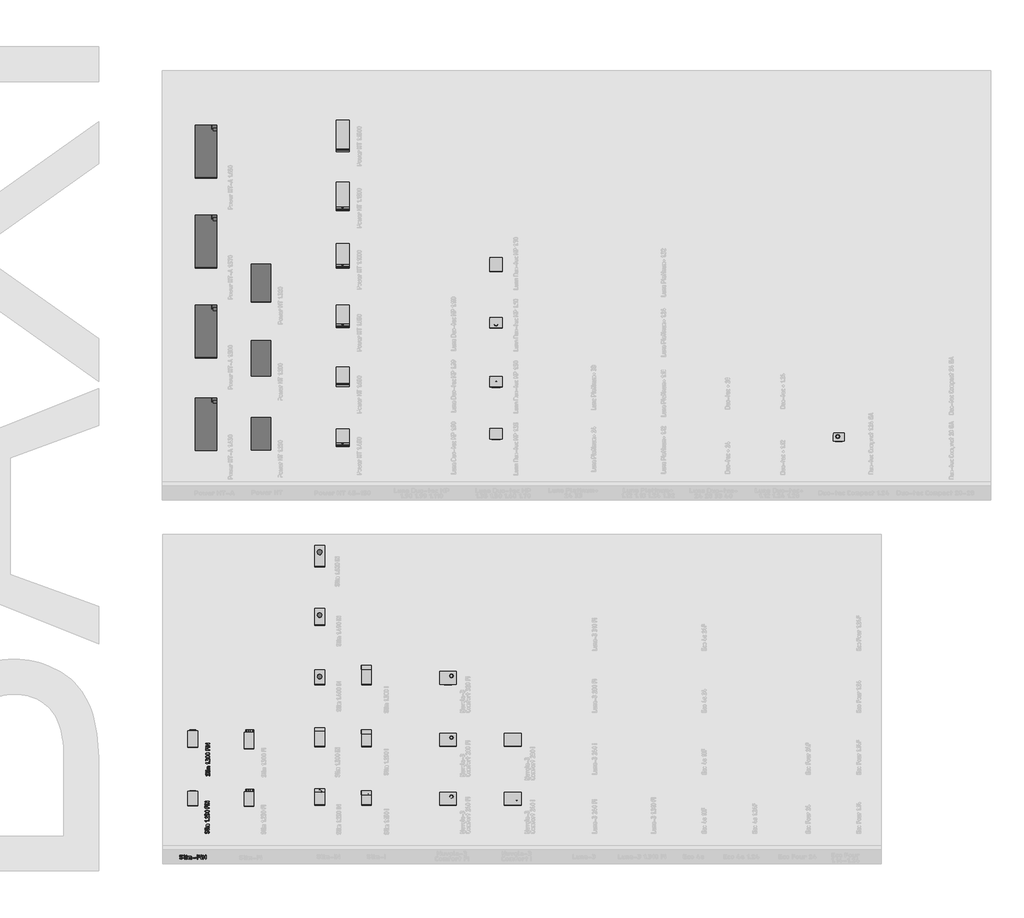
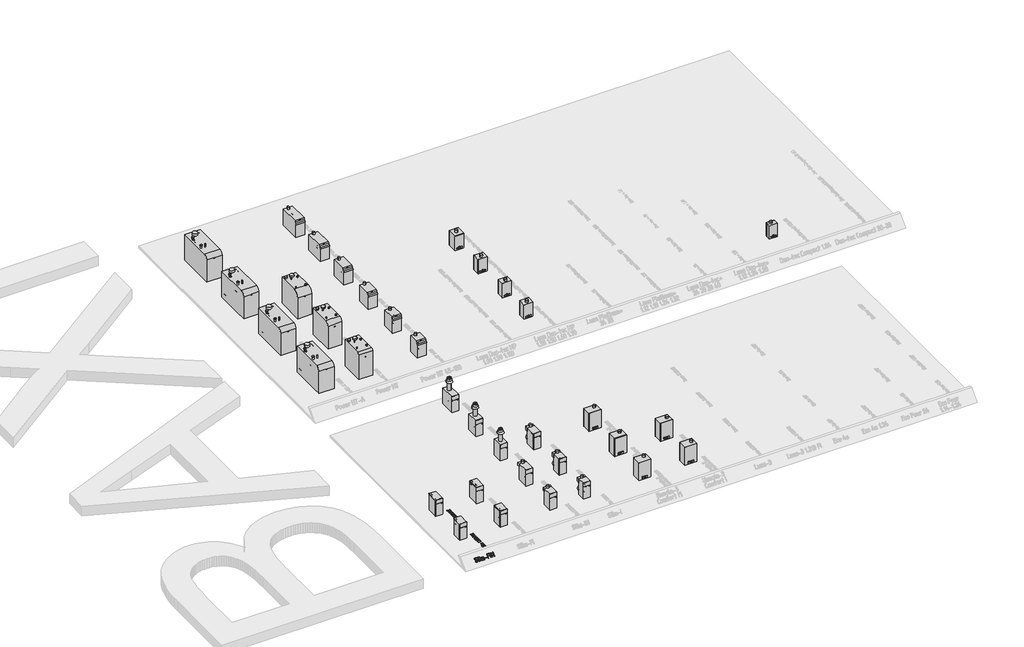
# One storey, part 1 of 37: 38 proxies.
"""IFC4 building model written with IfcOpenShell, lengths in millimetres."""

from ifc_helpers import new_model, si_unit, frame, origin, origin_with_axes, place, context, project, spatial, polyline, outline, extrude, transform, mapped, element, save
from components import mechanical_equipment_8a4b9af9, mechanical_equipment_a74dad36, mechanical_equipment_10b0f234, mechanical_equipment_650515a4, mechanical_equipment_463e2e80, mechanical_equipment_e18ea89c, mechanical_equipment_23d5eb3c, mechanical_equipment_ea8dedc1, mechanical_equipment_b090fe39, mechanical_equipment_0fdd0bc7, mechanical_equipment_2a8ce769, mechanical_equipment_119eb01d, mechanical_equipment_6b7b6108, mechanical_equipment_e7e8762c, mechanical_equipment_2752ba4d, mechanical_equipment_6a41e5de, mechanical_equipment_393236bb, mechanical_equipment_7dd2ec9c, mechanical_equipment_66ac5500, mechanical_equipment_ec901020, mechanical_equipment_c902e5fc, mechanical_equipment_f56d0d52, mechanical_equipment_bfaf0c7a, mechanical_equipment_19ea7d72, mechanical_equipment_07f1cfd3, mechanical_equipment_adfab362, mechanical_equipment_bacb03d4

model = new_model("IFC4")

# Units and contexts
model_context = context("Model", 3, world=origin())
ifc_project = project(units=[si_unit("LENGTHUNIT", "METRE", prefix="MILLI")], contexts=[model_context])

# Site, building, storey
site = spatial("IfcSite", under=ifc_project)
building = spatial("IfcBuilding", under=site)
storey = spatial("IfcBuildingStorey", under=building, Name="01_Стартовый вид_Площадка", Elevation=0.0)

# Proxies
placement = place(None, origin())
element("IfcBuildingElementProxy", 1, Name="200мм", ObjectType="200мм", at=placement, inside=storey, context=model_context, shape_type="SweptSolid", body=[
    extrude(outline(polyline([(14.3630412, 0.0), (32.9877933, -5.8941685), (47.8141757, -18.6996043), (56.9062251, -35.9734936), (58.3279779, -55.2730234), (48.6940131, -89.0636866), (28.465259, -117.438169), (19.8566966, -120.8141148), (13.1935466, -117.0720467), (11.0810971, -109.7937622), (13.5457841, -104.4003933), (30.6225918, -78.9638997), (37.9653489, -53.2828018), (37.1217113, -41.7028614), (31.6871819, -31.4013362), (22.795241, -23.7869323), (11.5793686, -20.2683557), (-4.7487136, -22.4723065), (-17.1284133, -33.4332985), (-52.3598677, -85.2510926), (-61.7270374, -95.9430578), (-72.7554059, -103.0648153), (-85.4449733, -106.6163651), (-99.7957395, -106.5977072), (-118.4228484, -100.723375), (-133.2563012, -87.9774481), (-142.3585635, -70.7895159), (-143.7921005, -51.5891676), (-137.3814417, -21.2242168), (-126.4203725, 0.2585199), (-116.4658201, 5.0302039), (-109.8058125, 1.2616874), (-107.7027903, -6.0959424), (-109.2509461, -10.0961908), (-118.5712994, -31.6531699), (-123.4294716, -53.5793891), (-122.5740497, -65.0601481), (-117.1293075, -75.2757162), (-108.2302961, -82.8306112), (-97.0120668, -86.3293515), (-80.7315133, -84.186808), (-68.4943996, -73.4100379), (-33.2692301, -21.6451404), (-23.8161357, -10.8225702), (-12.7263922, -3.6075233), (0.0, 0.0), (14.3630412, 0.0)])), frame((-1492.0563269, -18010.5273275, 121.1467473), z_axis=(0.0, -0.7071067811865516, 0.7071067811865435), x_axis=(0.11798432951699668, -0.7021679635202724, -0.7021679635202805)), (0.0, 0.0, 1.0), 10.0),
    extrude(outline(polyline([(160.9250531, 0.0), (168.4759059, -2.5569026), (170.9928568, -10.2276102), (168.4759059, -17.8983178), (160.9250531, -20.4552203), (0.0, -20.4552203), (-6.365622, -22.9521954), (-10.014535, -30.4431208), (-13.6767652, -37.9340462), (-20.0823387, -40.4310213), (-27.6331915, -37.9407048), (-30.1501425, -30.4697552), (-28.1525623, -18.1713204), (-22.159822, -8.4431053), (-12.6247063, -2.1107763), (0.0, 0.0), (160.9250531, 0.0)])), frame((-1449.4512726, -18034.775286, 96.8987888), z_axis=(0.0, -0.7071067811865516, 0.7071067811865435), x_axis=(0.0, 0.7071067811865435, 0.7071067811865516)), (0.0, 0.0, 1.0), 10.0),
    extrude(outline(polyline([(7.9341911, 0.0), (17.4144496, -3.2273221), (23.7006464, -8.0683052), (23.5987197, -16.1366103), (18.7566637, -22.5912544), (10.8224726, -22.5912545), (1.3422141, -19.3639324), (-4.9439827, -14.5229493), (-4.8420559, -6.4546441), (0.0, 0.0), (7.9341911, 0.0)])), frame((-1368.4826924, -17933.3387777, 198.3352971), z_axis=(0.0, -0.7071067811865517, 0.7071067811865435), x_axis=(-0.32226379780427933, 0.669382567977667, 0.6693825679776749)), (0.0, 0.0, 1.0), 10.0),
    extrude(outline(polyline([(-40.4252129, 16.4627758), (-34.1768363, 11.6346677), (-34.2913697, 3.5706542), (-39.120819, -2.8882816), (-47.0171899, -2.9011566), (-160.6290116, 35.7752082), (-166.9152084, 40.6161914), (-166.8132817, 48.6844966), (-161.9712257, 55.1391407), (-154.0370347, 55.1391406), (-40.4252129, 16.4627758)])), frame((-1368.4826924, -17933.3387777, 198.3352971), z_axis=(0.0, -0.7071067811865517, 0.7071067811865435), x_axis=(-0.32226379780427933, 0.669382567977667, 0.6693825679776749)), (0.0, 0.0, 1.0), 10.0),
    extrude(outline(polyline([(8.0648268, 0.0), (95.6150095, -28.42341), (109.8146858, -36.0716859), (119.6837276, -48.390632), (124.162071, -63.3839268), (122.1896524, -79.0552479), (94.4406404, -164.5281403), (89.7017561, -170.8444537), (81.6369293, -170.8444538), (75.110059, -166.1072187), (74.9850443, -158.211827), (102.6189151, -73.0935938), (103.610512, -65.2736838), (101.3875032, -57.8242882), (96.4501456, -51.7058984), (89.2986962, -47.8790061), (69.8431, -41.5626928), (36.0738519, -145.5792003), (31.3349677, -151.8955137), (23.2701408, -151.8955138), (16.7432705, -147.1582787), (16.6182558, -139.262887), (50.3875039, -35.2463794), (11.4763116, -22.6137528), (-22.2929365, -126.6302604), (-27.0318208, -132.9465737), (-35.0966477, -132.9465738), (-41.6235179, -128.2093387), (-41.7485327, -120.313947), (-4.7388842, -6.3163133), (0.0, 0.0), (8.0648268, 0.0)])), frame((-1307.1170316, -17959.018072, 172.6560028), z_axis=(0.0, -0.7071067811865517, 0.7071067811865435), x_axis=(0.951131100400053, 0.21834563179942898, 0.21834563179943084)), (0.0, 0.0, 1.0), 10.0),
    extrude(outline(polyline([(7.9341911, 1e-07), (83.6754055, -25.7842431), (89.9616023, -30.6252263), (89.8596757, -38.6935314), (85.0176196, -45.1481755), (77.0834286, -45.1481755), (1.3422141, -19.3639323), (-4.9439827, -14.5229492), (-4.8420559, -6.454644), (0.0, 0.0), (7.9341911, 1e-07)])), frame((-1028.5211931, -18018.1265906, 113.5474842), z_axis=(0.0, -0.7071067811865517, 0.7071067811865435), x_axis=(-0.9466499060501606, -0.22787491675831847, -0.22787491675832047)), (0.0, 0.0, 1.0), 10.0),
    extrude(outline(polyline([(7.9720216, 1e-07), (179.416636, -58.0553191), (185.7484838, -62.8989575), (185.6722013, -70.971688), (159.9419745, -146.9562639), (155.1111501, -153.2502708), (147.0426908, -153.1613747), (140.5802352, -148.3297494), (140.5674213, -140.3955687), (163.0173004, -74.0982693), (104.8936407, -54.4161835), (82.4437616, -120.7134828), (77.6129371, -127.0074897), (69.5444779, -126.9185936), (63.0820221, -122.0869682), (63.0692083, -114.1527875), (85.5190874, -47.8554882), (1.2599626, -19.3232978), (-4.9583623, -14.5181011), (-4.844239, -6.4581844), (0.0, 0.0), (7.9720216, 1e-07)])), frame((-983.2427107, -18054.3149031, 77.3591717), z_axis=(0.0, -0.7071067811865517, 0.7071067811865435), x_axis=(-0.32073452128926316, 0.6697497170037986, 0.6697497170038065)), (0.0, 0.0, 1.0), 10.0),
    extrude(outline(polyline([(-40.4252129, 16.4627758), (-34.1768363, 11.6346677), (-34.2913697, 3.5706542), (-39.120819, -2.8882816), (-47.0171899, -2.9011566), (-160.6290116, 35.7752082), (-166.9152084, 40.6161914), (-166.8132817, 48.6844966), (-161.9712257, 55.1391407), (-154.0370347, 55.1391406), (-40.4252129, 16.4627758)])), frame((-843.4653723, -17933.3387777, 198.3352971), z_axis=(0.0, -0.7071067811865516, 0.7071067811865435), x_axis=(-0.32226379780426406, 0.6693825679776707, 0.6693825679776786)), (0.0, 0.0, 1.0), 10.0),
    extrude(outline(polyline([(7.9341911, 0.0), (17.4144496, -3.2273221), (23.7006464, -8.0683052), (23.5987197, -16.1366103), (18.7566637, -22.5912544), (10.8224726, -22.5912545), (1.3422141, -19.3639324), (-4.9439827, -14.5229493), (-4.8420559, -6.4546441), (0.0, 0.0), (7.9341911, 0.0)])), frame((-843.4653723, -17933.3387777, 198.3352971), z_axis=(0.0, -0.7071067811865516, 0.7071067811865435), x_axis=(-0.32226379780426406, 0.6693825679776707, 0.6693825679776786)), (0.0, 0.0, 1.0), 10.0),
    extrude(outline(polyline([(165.9671598, -1e-07), (40.6608856, 67.1707339), (35.2139133, 72.9916979), (36.6196324, 80.9414621), (42.4620105, 86.5129444), (50.3250152, 85.1990626), (209.8569446, -0.3184174), (215.2284159, -6.2802276), (213.5961938, -14.6525308), (204.6529484, -20.7376115), (37.6998645, -20.2091044), (163.146985, -87.4553394), (168.5939573, -93.2763033), (167.1882382, -101.2260676), (161.3458601, -106.7975499), (153.4828554, -105.4836681), (-6.049074, -19.9661881), (-11.4457123, -14.0513267), (-9.8889913, -5.8198698), (-5.9444737, -1.6183992), (0.0, 0.0), (165.9671598, -1e-07)])), frame((-764.2013937, -17918.0837513, 213.5903235), z_axis=(0.0, -0.7071067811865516, 0.7071067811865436), x_axis=(0.4724529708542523, -0.6232127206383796, -0.623212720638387)), (0.0, 0.0, 1.0), 10.0),
])
element("IfcBuildingElementProxy", 2, Name="150 мм", ObjectType="150 мм", at=placement, inside=storey, context=model_context, shape_type="SweptSolid", body=[
    extrude(outline(polyline([(-590.9185509, -17063.8352934), (-576.5259863, -17066.576972), (-564.3507355, -17074.8020081), (-556.0507902, -17086.862398), (-553.2841418, -17101.1101381), (-557.4690721, -17127.1286189), (-570.023863, -17150.0508506), (-576.1364582, -17153.326882), (-581.4300454, -17151.1295439), (-583.6473594, -17145.895884), (-582.2890049, -17141.6610142), (-571.8216851, -17121.2057939), (-568.625557, -17101.4297509), (-570.2785545, -17092.8801081), (-575.2375471, -17085.6888197), (-582.5337084, -17080.8047363), (-591.1982121, -17079.1767086), (-603.163717, -17082.2629698), (-611.4137228, -17091.5217536), (-633.0674911, -17133.2312262), (-646.6809995, -17148.302968), (-666.5069821, -17153.326882), (-680.8995467, -17150.6001852), (-693.0747974, -17142.4200946), (-701.3747428, -17130.4246261), (-704.1413912, -17116.2517953), (-702.05392, -17093.0698782), (-695.7915064, -17076.1004352), (-688.799976, -17071.6658074), (-683.5063887, -17073.8831213), (-681.2890748, -17079.1767086), (-682.0881069, -17082.2929335), (-687.1220087, -17099.1724854), (-688.799976, -17115.9321825), (-687.1469785, -17124.4069161), (-682.1879859, -17131.5332831), (-674.8918245, -17136.3724209), (-666.2273208, -17137.9854668), (-654.2917797, -17134.9491451), (-646.131665, -17125.8401798), (-624.4778967, -17084.1706588), (-610.7744972, -17068.9191347), (-590.9185509, -17063.8352934)])), origin_with_axes(), (0.0, 0.0, 1.0), 10.0),
    extrude(outline(polyline([(-696.5905384, -17033.152463), (-702.253678, -17031.2347861), (-704.1413912, -17025.4817554), (-702.253678, -17019.7287247), (-696.5905384, -17017.8110478), (-575.8967485, -17017.8110478), (-571.1225321, -17015.9383164), (-568.3858474, -17010.3201224), (-565.6391747, -17004.7019283), (-560.8349946, -17002.829197), (-555.171855, -17004.6969344), (-553.2841418, -17010.3001466), (-554.7823268, -17019.5239727), (-559.2768821, -17026.820134), (-566.4282189, -17031.5693807), (-575.8967485, -17033.152463), (-696.5905384, -17033.152463)])), origin_with_axes(), (0.0, 0.0, 1.0), 10.0),
    extrude(outline(polyline([(-650.8060024, -16974.3437047), (-656.4092146, -16972.4260278), (-658.276952, -16966.6729971), (-656.4092146, -16960.9199664), (-650.8060024, -16959.0022895), (-560.795043, -16959.0022895), (-555.1618671, -16960.9199664), (-553.2841418, -16966.6729971), (-555.1618671, -16972.4260278), (-560.795043, -16974.3437047), (-650.8060024, -16974.3437047)])), origin_with_axes(), (0.0, 0.0, 1.0), 10.0),
    extrude(outline(polyline([(-689.1195888, -16974.3437047), (-696.63049, -16974.3437047), (-702.2636659, -16972.4260278), (-704.1413912, -16966.6729971), (-702.2636659, -16960.9199664), (-696.63049, -16959.0022895), (-689.1195888, -16959.0022895), (-683.4864129, -16960.9199664), (-681.6086876, -16966.6729971), (-683.4864129, -16972.4260278), (-689.1195888, -16974.3437047)])), origin_with_axes(), (0.0, 0.0, 1.0), 10.0),
    extrude(outline(polyline([(-658.1171456, -16920.6487515), (-658.1171456, -16851.6123831), (-655.9497712, -16839.7117997), (-649.447648, -16829.8187842), (-639.7893482, -16823.1518606), (-628.1534441, -16820.9295527), (-560.7550914, -16820.9295527), (-555.1518792, -16822.8472296), (-553.2841418, -16828.6002603), (-555.1518792, -16834.353291), (-560.7550914, -16836.2709679), (-627.8737828, -16836.2709679), (-638.4809332, -16840.68562), (-642.7757304, -16851.6123831), (-642.7757304, -16866.9537983), (-560.7550914, -16866.9537983), (-555.1518792, -16868.8714752), (-553.2841418, -16874.6245059), (-555.1518792, -16880.3775366), (-560.7550914, -16882.2952135), (-642.7757304, -16882.2952135), (-642.7757304, -16912.9780439), (-560.7550914, -16912.9780439), (-555.1518792, -16914.8957208), (-553.2841418, -16920.6487515), (-555.1518792, -16926.4017822), (-560.7550914, -16928.3194591), (-650.646196, -16928.3194591), (-656.2494082, -16926.4017822), (-658.1171456, -16920.6487515)])), origin_with_axes(), (0.0, 0.0, 1.0), 10.0),
    extrude(outline(polyline([(-678.4125595, -16708.4258413), (-661.1135158, -16725.6849334), (-658.9561293, -16730.9185932), (-660.8338546, -16736.5517691), (-666.4670305, -16738.4294944), (-671.7006903, -16736.2321563), (-701.1849727, -16706.9076804), (-704.1413912, -16700.7551337), (-702.253678, -16695.002103), (-696.5905384, -16693.0844261), (-560.8349946, -16693.0844261), (-555.171855, -16695.002103), (-553.2841418, -16700.7551337), (-555.171855, -16706.5081644), (-560.8349946, -16708.4258413), (-678.4125595, -16708.4258413)])), origin_with_axes(), (0.0, 0.0, 1.0), 10.0),
    extrude(outline(polyline([(-568.625557, -16662.4015957), (-574.3785877, -16660.4839188), (-576.2962646, -16654.7308881), (-574.3785877, -16648.9778574), (-568.625557, -16647.0601805), (-560.9548494, -16647.0601805), (-555.2018187, -16648.9778574), (-553.2841418, -16654.7308881), (-555.2018187, -16660.4839188), (-560.9548494, -16662.4015957), (-568.625557, -16662.4015957)])), origin_with_axes(), (0.0, 0.0, 1.0), 10.0),
    extrude(outline(polyline([(-704.1413912, -16579.2223602), (-701.3897246, -16564.7948379), (-693.1347248, -16552.6745206), (-680.974456, -16544.4494845), (-666.5069821, -16541.7078058), (-655.7100616, -16543.4157368), (-644.8132621, -16548.5395298), (-568.625557, -16595.802275), (-568.625557, -16549.218707), (-566.7078801, -16543.5855311), (-560.9548494, -16541.7078058), (-555.2018187, -16543.5855311), (-553.2841418, -16549.218707), (-553.2841418, -16609.2260133), (-555.1618671, -16614.8591892), (-560.795043, -16616.7369145), (-565.1497676, -16615.4584632), (-653.762421, -16560.4850588), (-666.2273208, -16556.7296082), (-674.8918245, -16558.3776118), (-682.1879859, -16563.3216225), (-687.1469785, -16570.5928141), (-688.799976, -16579.2223602), (-684.085687, -16591.4575383), (-669.9428198, -16602.7538538), (-666.307224, -16609.2260133), (-668.1849493, -16614.8591892), (-673.8181252, -16616.7369145), (-676.8943986, -16616.0177857), (-697.3296431, -16599.8473747), (-702.4384542, -16590.0916929), (-704.1413912, -16579.2223602)])), origin_with_axes(), (0.0, 0.0, 1.0), 10.0),
    extrude(outline(polyline([(-627.4343152, -16475.22834), (-627.4343152, -16490.2101907), (-629.3519921, -16495.8433666), (-635.1050228, -16497.7210919), (-640.8580535, -16495.8433666), (-642.7757304, -16490.2101907), (-642.7757304, -16475.22834), (-644.4487038, -16466.5238847), (-649.4676238, -16459.2676749), (-656.8936278, -16454.3686097), (-665.7878532, -16452.735588), (-674.6321391, -16454.3835916), (-682.0681311, -16459.3276023), (-687.1170148, -16466.5987939), (-688.799976, -16475.22834), (-688.799976, -16505.2319931), (-690.7176529, -16510.865169), (-696.4706836, -16512.7428943), (-702.2237143, -16510.865169), (-704.1413912, -16505.2319931), (-704.1413912, -16475.22834), (-701.3248033, -16460.7608661), (-692.8750394, -16448.520694), (-680.470067, -16440.1758031), (-665.7878532, -16437.3941728), (-648.5886885, -16441.1496234), (-635.1050228, -16452.4159752), (-622.030861, -16441.1496234), (-605.3410793, -16437.3941728), (-590.4790833, -16437.3941728), (-576.1664219, -16440.1907849), (-564.1509775, -16448.5806214), (-556.0008507, -16460.8357753), (-553.2841418, -16475.22834), (-553.2841418, -16505.2319931), (-555.2018187, -16510.865169), (-560.9548494, -16512.7428943), (-566.7078801, -16510.865169), (-568.625557, -16505.2319931), (-568.625557, -16475.22834), (-570.228615, -16466.5238847), (-575.0377891, -16459.2676749), (-582.1541682, -16454.3686097), (-590.6788413, -16452.735588), (-605.3810309, -16452.735588), (-613.8557645, -16454.3835916), (-620.9821315, -16459.3276023), (-625.8212693, -16466.5987939), (-627.4343152, -16475.22834)])), origin_with_axes(), (0.0, 0.0, 1.0), 10.0),
    extrude(outline(polyline([(-628.7127665, -16332.5611689), (-603.5732209, -16334.1891967), (-582.0892469, -16339.0732801), (-560.485418, -16351.4882404), (-555.0844608, -16359.8456162), (-553.2841418, -16369.6362557), (-555.0769699, -16379.4268952), (-560.4554543, -16387.7842709), (-581.9693921, -16400.1992313), (-603.4833298, -16405.0833146), (-628.7127665, -16406.7113424), (-653.9422032, -16405.0833146), (-675.4561409, -16400.1992313), (-696.9700786, -16387.7842709), (-702.3485631, -16379.4268952), (-704.1413912, -16369.6362557), (-702.3410721, -16359.8456162), (-696.9401149, -16351.4882404), (-675.3362861, -16339.0732801), (-653.8523121, -16334.1891967), (-628.7127665, -16332.5611689)]), holes=[polyline([(-628.7127665, -16347.9025841), (-663.8701763, -16351.7379379), (-682.5675261, -16359.1289843), (-688.799976, -16369.6362557), (-682.5375624, -16380.0536359), (-663.7503215, -16387.4147186), (-628.7127665, -16391.3699272), (-593.5553567, -16387.5345734), (-574.8580069, -16380.143527), (-568.625557, -16369.6362557), (-574.8580069, -16359.1289843), (-593.5553567, -16351.7379379), (-628.7127665, -16347.9025841)])]), origin_with_axes(), (0.0, 0.0, 1.0), 10.0),
    extrude(outline(polyline([(-560.8349946, -16250.7402879), (-696.5905384, -16250.7402879), (-702.253678, -16248.822611), (-704.1413912, -16243.0695803), (-704.1413912, -16182.9024676), (-702.2237143, -16177.2692917), (-696.4706836, -16175.3915664), (-690.7176529, -16177.2692917), (-688.799976, -16182.9024676), (-688.799976, -16235.3988727), (-642.7757304, -16235.3988727), (-642.7757304, -16182.9024676), (-640.8580535, -16177.2692917), (-635.1050228, -16175.3915664), (-629.3519921, -16177.2692917), (-627.4343152, -16182.9024676), (-627.4343152, -16235.3988727), (-560.7151398, -16235.3988727), (-555.1418913, -16237.3165496), (-553.2841418, -16243.0695803), (-555.171855, -16248.822611), (-560.8349946, -16250.7402879)])), origin_with_axes(), (0.0, 0.0, 1.0), 10.0),
    extrude(outline(polyline([(-650.8060024, -16145.907284), (-656.4092146, -16143.9896071), (-658.276952, -16138.2365764), (-656.4092146, -16132.4835457), (-650.8060024, -16130.5658688), (-560.795043, -16130.5658688), (-555.1618671, -16132.4835457), (-553.2841418, -16138.2365764), (-555.1618671, -16143.9896071), (-560.795043, -16145.907284), (-650.8060024, -16145.907284)])), origin_with_axes(), (0.0, 0.0, 1.0), 10.0),
    extrude(outline(polyline([(-689.1195888, -16145.907284), (-696.63049, -16145.907284), (-702.2636659, -16143.9896071), (-704.1413912, -16138.2365764), (-702.2636659, -16132.4835457), (-696.63049, -16130.5658688), (-689.1195888, -16130.5658688), (-683.4864129, -16132.4835457), (-681.6086876, -16138.2365764), (-683.4864129, -16143.9896071), (-689.1195888, -16145.907284)])), origin_with_axes(), (0.0, 0.0, 1.0), 10.0),
    extrude(outline(polyline([(-589.9597125, -16025.732865), (-696.5905384, -16025.732865), (-702.253678, -16023.8151881), (-704.1413912, -16018.0621574), (-702.253678, -16012.3091267), (-696.5905384, -16010.3914498), (-560.8349946, -16010.3914498), (-555.171855, -16012.4289815), (-553.2841418, -16018.5415766), (-557.0395924, -16025.732865), (-667.5856753, -16084.5416232), (-560.8349946, -16084.5416232), (-555.171855, -16086.4593001), (-553.2841418, -16092.2123308), (-555.171855, -16097.9653615), (-560.8349946, -16099.8830384), (-696.5905384, -16099.8830384), (-702.253678, -16097.8854583), (-704.1413912, -16091.892718), (-699.6668118, -16084.5416232), (-589.9597125, -16025.732865)])), origin_with_axes(), (0.0, 0.0, 1.0), 10.0),
])
element("IfcBuildingElementProxy", 3, Name="150 мм", ObjectType="150 мм", at=placement, inside=storey, context=model_context, shape_type="SweptSolid", body=[
    extrude(outline(polyline([(-563.4485612, -15004.0915615), (-549.0559966, -15006.8332402), (-536.8807458, -15015.0582763), (-528.5808005, -15027.1186662), (-525.814152, -15041.3664063), (-529.9990824, -15067.3848871), (-542.5538733, -15090.3071188), (-548.6664684, -15093.5831502), (-553.9600557, -15091.3858121), (-556.1773696, -15086.1521522), (-554.8190152, -15081.9172824), (-544.3516954, -15061.4620621), (-541.1555672, -15041.6860191), (-542.8085648, -15033.1363762), (-547.7675574, -15025.9450879), (-555.0637187, -15021.0610045), (-563.7282224, -15019.4329767), (-575.6937272, -15022.519238), (-583.9437331, -15031.7780218), (-605.5975014, -15073.4874943), (-619.2110098, -15088.5592362), (-639.0369923, -15093.5831502), (-653.429557, -15090.8564533), (-665.6048077, -15082.6763628), (-673.904753, -15070.6808943), (-676.6714015, -15056.5080635), (-674.5839303, -15033.3261463), (-668.3215167, -15016.3567034), (-661.3299863, -15011.9220755), (-656.036399, -15014.1393895), (-653.8190851, -15019.4329767), (-654.6181171, -15022.5492017), (-659.652019, -15039.4287536), (-661.3299863, -15056.1884506), (-659.6769888, -15064.6631842), (-654.7179961, -15071.7895512), (-647.4218348, -15076.6286891), (-638.7573311, -15078.241735), (-626.82179, -15075.2054132), (-618.6616753, -15066.096448), (-597.0079069, -15024.426927), (-583.3045074, -15009.1754029), (-563.4485612, -15004.0915615)])), origin_with_axes(), (0.0, 0.0, 1.0), 10.0),
    extrude(outline(polyline([(-669.1205487, -14973.4087311), (-674.7836883, -14971.4910542), (-676.6714015, -14965.7380235), (-674.7836883, -14959.9849928), (-669.1205487, -14958.0673159), (-548.4267588, -14958.0673159), (-543.6525424, -14956.1945846), (-540.9158576, -14950.5763905), (-538.169185, -14944.9581965), (-533.3650048, -14943.0854652), (-527.7018652, -14944.9532026), (-525.814152, -14950.5564147), (-527.3123371, -14959.7802409), (-531.8068924, -14967.0764022), (-538.9582291, -14971.8256489), (-548.4267588, -14973.4087311), (-669.1205487, -14973.4087311)])), origin_with_axes(), (0.0, 0.0, 1.0), 10.0),
    extrude(outline(polyline([(-623.3360127, -14914.5999729), (-628.9392249, -14912.682296), (-630.8069623, -14906.9292653), (-628.9392249, -14901.1762346), (-623.3360127, -14899.2585577), (-533.3250532, -14899.2585577), (-527.6918773, -14901.1762346), (-525.814152, -14906.9292653), (-527.6918773, -14912.682296), (-533.3250532, -14914.5999729), (-623.3360127, -14914.5999729)])), origin_with_axes(), (0.0, 0.0, 1.0), 10.0),
    extrude(outline(polyline([(-661.6495991, -14914.5999729), (-669.1605003, -14914.5999729), (-674.7936762, -14912.682296), (-676.6714015, -14906.9292653), (-674.7936762, -14901.1762346), (-669.1605003, -14899.2585577), (-661.6495991, -14899.2585577), (-656.0164232, -14901.1762346), (-654.1386979, -14906.9292653), (-656.0164232, -14912.682296), (-661.6495991, -14914.5999729)])), origin_with_axes(), (0.0, 0.0, 1.0), 10.0),
    extrude(outline(polyline([(-630.6471559, -14860.9050197), (-630.6471559, -14791.8686513), (-628.4797815, -14779.9680678), (-621.9776582, -14770.0750524), (-612.3193584, -14763.4081288), (-600.6834543, -14761.1858209), (-533.2851016, -14761.1858209), (-527.6818894, -14763.1034978), (-525.814152, -14768.8565285), (-527.6818894, -14774.6095592), (-533.2851016, -14776.5272361), (-600.4037931, -14776.5272361), (-611.0109435, -14780.9418881), (-615.3057407, -14791.8686513), (-615.3057407, -14807.2100665), (-533.2851016, -14807.2100665), (-527.6818894, -14809.1277434), (-525.814152, -14814.8807741), (-527.6818894, -14820.6338048), (-533.2851016, -14822.5514817), (-615.3057407, -14822.5514817), (-615.3057407, -14853.2343121), (-533.2851016, -14853.2343121), (-527.6818894, -14855.151989), (-525.814152, -14860.9050197), (-527.6818894, -14866.6580504), (-533.2851016, -14868.5757273), (-623.1762063, -14868.5757273), (-628.7794185, -14866.6580504), (-630.6471559, -14860.9050197)])), origin_with_axes(), (0.0, 0.0, 1.0), 10.0),
    extrude(outline(polyline([(-650.9425698, -14648.6821095), (-633.6435261, -14665.9412016), (-631.4861395, -14671.1748614), (-633.3638648, -14676.8080373), (-638.9970407, -14678.6857626), (-644.2307006, -14676.4884245), (-673.7149829, -14647.1639486), (-676.6714015, -14641.0114019), (-674.7836883, -14635.2583712), (-669.1205487, -14633.3406943), (-533.3650048, -14633.3406943), (-527.7018652, -14635.2583712), (-525.814152, -14641.0114019), (-527.7018652, -14646.7644326), (-533.3650048, -14648.6821095), (-650.9425698, -14648.6821095)])), origin_with_axes(), (0.0, 0.0, 1.0), 10.0),
    extrude(outline(polyline([(-541.1555672, -14602.6578639), (-546.9085979, -14600.740187), (-548.8262748, -14594.9871563), (-546.9085979, -14589.2341256), (-541.1555672, -14587.3164487), (-533.4848596, -14587.3164487), (-527.7318289, -14589.2341256), (-525.814152, -14594.9871563), (-527.7318289, -14600.740187), (-533.4848596, -14602.6578639), (-541.1555672, -14602.6578639)])), origin_with_axes(), (0.0, 0.0, 1.0), 10.0),
    extrude(outline(polyline([(-599.9643255, -14520.317612), (-599.9643255, -14535.2994628), (-601.8820024, -14540.9326387), (-607.6350331, -14542.810364), (-613.3880638, -14540.9326387), (-615.3057407, -14535.2994628), (-615.3057407, -14520.317612), (-616.978714, -14511.6131567), (-621.997634, -14504.356947), (-629.4236381, -14499.4578817), (-638.3178635, -14497.82486), (-647.1621494, -14499.4728636), (-654.5981413, -14504.4168744), (-659.6470251, -14511.6880659), (-661.3299863, -14520.317612), (-661.3299863, -14550.3212651), (-663.2476632, -14555.954441), (-669.0006939, -14557.8321663), (-674.7537246, -14555.954441), (-676.6714015, -14550.3212651), (-676.6714015, -14520.317612), (-673.8548135, -14505.8501381), (-665.4050497, -14493.609966), (-653.0000773, -14485.2650751), (-638.3178635, -14482.4834448), (-621.1186988, -14486.2388954), (-607.6350331, -14497.5052472), (-594.5608713, -14486.2388954), (-577.8710896, -14482.4834448), (-563.0090936, -14482.4834448), (-548.6964321, -14485.280057), (-536.6809878, -14493.6698934), (-528.530861, -14505.9250473), (-525.814152, -14520.317612), (-525.814152, -14550.3212651), (-527.7318289, -14555.954441), (-533.4848596, -14557.8321663), (-539.2378903, -14555.954441), (-541.1555672, -14550.3212651), (-541.1555672, -14520.317612), (-542.7586253, -14511.6131567), (-547.5677994, -14504.356947), (-554.6841785, -14499.4578817), (-563.2088516, -14497.82486), (-577.9110412, -14497.82486), (-586.3857747, -14499.4728636), (-593.5121418, -14504.4168744), (-598.3512796, -14511.6880659), (-599.9643255, -14520.317612)])), origin_with_axes(), (0.0, 0.0, 1.0), 10.0),
    extrude(outline(polyline([(-601.2427768, -14377.650441), (-576.1032312, -14379.2784687), (-554.6192571, -14384.1625521), (-533.0154283, -14396.5775124), (-527.6144711, -14404.9348882), (-525.814152, -14414.7255277), (-527.6069802, -14424.5161672), (-532.9854646, -14432.8735429), (-554.4994023, -14445.2885033), (-576.0133401, -14450.1725866), (-601.2427768, -14451.8006144), (-626.4722135, -14450.1725866), (-647.9861512, -14445.2885033), (-669.5000889, -14432.8735429), (-674.8785733, -14424.5161672), (-676.6714015, -14414.7255277), (-674.8710824, -14404.9348882), (-669.4701252, -14396.5775124), (-647.8662964, -14384.1625521), (-626.3823224, -14379.2784687), (-601.2427768, -14377.650441)]), holes=[polyline([(-601.2427768, -14392.9918562), (-636.4001866, -14396.82721), (-655.0975364, -14404.2182563), (-661.3299863, -14414.7255277), (-655.0675727, -14425.1429079), (-636.2803318, -14432.5039906), (-601.2427768, -14436.4591992), (-566.0853669, -14432.6238454), (-547.3880172, -14425.232799), (-541.1555672, -14414.7255277), (-547.3880172, -14404.2182563), (-566.0853669, -14396.82721), (-601.2427768, -14392.9918562)])]), origin_with_axes(), (0.0, 0.0, 1.0), 10.0),
    extrude(outline(polyline([(-601.2427768, -14272.8174371), (-576.1032312, -14274.4454649), (-554.6192571, -14279.3295483), (-533.0154283, -14291.7445086), (-527.6144711, -14300.1018844), (-525.814152, -14309.8925238), (-527.6069802, -14319.6831633), (-532.9854646, -14328.0405391), (-554.4994023, -14340.4554994), (-576.0133401, -14345.3395828), (-601.2427768, -14346.9676106), (-626.4722135, -14345.3395828), (-647.9861512, -14340.4554994), (-669.5000889, -14328.0405391), (-674.8785733, -14319.6831633), (-676.6714015, -14309.8925238), (-674.8710824, -14300.1018844), (-669.4701252, -14291.7445086), (-647.8662964, -14279.3295483), (-626.3823224, -14274.4454649), (-601.2427768, -14272.8174371)]), holes=[polyline([(-601.2427768, -14288.1588523), (-636.4001866, -14291.9942061), (-655.0975364, -14299.3852525), (-661.3299863, -14309.8925238), (-655.0675727, -14320.3099041), (-636.2803318, -14327.6709868), (-601.2427768, -14331.6261954), (-566.0853669, -14327.7908416), (-547.3880172, -14320.3997952), (-541.1555672, -14309.8925238), (-547.3880172, -14299.3852525), (-566.0853669, -14291.9942061), (-601.2427768, -14288.1588523)])]), origin_with_axes(), (0.0, 0.0, 1.0), 10.0),
    extrude(outline(polyline([(-533.3650048, -14190.9965561), (-669.1205487, -14190.9965561), (-674.7836883, -14189.0788792), (-676.6714015, -14183.3258485), (-676.6714015, -14123.1587357), (-674.7537246, -14117.5255598), (-669.0006939, -14115.6478345), (-663.2476632, -14117.5255598), (-661.3299863, -14123.1587357), (-661.3299863, -14175.6551409), (-615.3057407, -14175.6551409), (-615.3057407, -14123.1587357), (-613.3880638, -14117.5255598), (-607.6350331, -14115.6478345), (-601.8820024, -14117.5255598), (-599.9643255, -14123.1587357), (-599.9643255, -14175.6551409), (-533.24515, -14175.6551409), (-527.6719015, -14177.5728178), (-525.814152, -14183.3258485), (-527.7018652, -14189.0788792), (-533.3650048, -14190.9965561)])), origin_with_axes(), (0.0, 0.0, 1.0), 10.0),
    extrude(outline(polyline([(-623.3360127, -14086.1635522), (-628.9392249, -14084.2458753), (-630.8069623, -14078.4928446), (-628.9392249, -14072.7398139), (-623.3360127, -14070.822137), (-533.3250532, -14070.822137), (-527.6918773, -14072.7398139), (-525.814152, -14078.4928446), (-527.6918773, -14084.2458753), (-533.3250532, -14086.1635522), (-623.3360127, -14086.1635522)])), origin_with_axes(), (0.0, 0.0, 1.0), 10.0),
    extrude(outline(polyline([(-661.6495991, -14086.1635522), (-669.1605003, -14086.1635522), (-674.7936762, -14084.2458753), (-676.6714015, -14078.4928446), (-674.7936762, -14072.7398139), (-669.1605003, -14070.822137), (-661.6495991, -14070.822137), (-656.0164232, -14072.7398139), (-654.1386979, -14078.4928446), (-656.0164232, -14084.2458753), (-661.6495991, -14086.1635522)])), origin_with_axes(), (0.0, 0.0, 1.0), 10.0),
    extrude(outline(polyline([(-562.4897228, -13965.9891332), (-669.1205487, -13965.9891332), (-674.7836883, -13964.0714563), (-676.6714015, -13958.3184256), (-674.7836883, -13952.5653949), (-669.1205487, -13950.647718), (-533.3650048, -13950.647718), (-527.7018652, -13952.6852497), (-525.814152, -13958.7978448), (-529.5696026, -13965.9891332), (-640.1156856, -14024.7978914), (-533.3650048, -14024.7978914), (-527.7018652, -14026.7155683), (-525.814152, -14032.468599), (-527.7018652, -14038.2216297), (-533.3650048, -14040.1393066), (-669.1205487, -14040.1393066), (-674.7836883, -14038.1417265), (-676.6714015, -14032.1489862), (-672.1968221, -14024.7978914), (-562.4897228, -13965.9891332)])), origin_with_axes(), (0.0, 0.0, 1.0), 10.0),
])
mechanical_equipment_shape = mechanical_equipment_8a4b9af9(model_context)
element("IfcBuildingElementProxy", 4, Name="BAXI_ГазовыйКотел_Duo_tec_Compact_1.24 : BAXI_Газовый котел_Duo-tec_Compact_1.24_GA", ObjectType="BAXI_ГазовыйКотел_Duo_tec_Compact_1.24 : BAXI_Газовый котел_Duo-tec_Compact_1.24_GA", at=placement, inside=storey, context=model_context, shape_type="MappedRepresentation", body=[
    mapped(mechanical_equipment_shape, transform((21849.7586699, -2894.7144933, 0.0), x_axis=(1.0, 0.0, 0.0), y_axis=(0.0, 1.0, 0.0), z_axis=(0.0, 0.0, 1.0))),
])
mechanical_equipment_2_shape = mechanical_equipment_a74dad36(model_context)
element("IfcBuildingElementProxy", 5, Name="BAXI_ГазовыйКотел_Nuvola-3_Comfort_i : BAXI_Газовый котел_Nuvola-3_Comfort_240 i", ObjectType="BAXI_ГазовыйКотел_Nuvola-3_Comfort_i : BAXI_Газовый котел_Nuvola-3_Comfort_240 i", at=placement, inside=storey, context=model_context, shape_type="MappedRepresentation", body=[
    mapped(mechanical_equipment_2_shape, transform((10241.0288818, -15688.228526, 0.0), x_axis=(1.0, 0.0, 0.0), y_axis=(0.0, 1.0, 0.0), z_axis=(0.0, 0.0, 1.0))),
])
element("IfcBuildingElementProxy", 6, Name="BAXI_ГазовыйКотел_Nuvola-3_Comfort_i : BAXI_Газовый котел_Nuvola-3_Comfort_280 i", ObjectType="BAXI_ГазовыйКотел_Nuvola-3_Comfort_i : BAXI_Газовый котел_Nuvola-3_Comfort_280 i", at=placement, inside=storey, context=model_context, shape_type="MappedRepresentation", body=[
    mapped(mechanical_equipment_2_shape, transform((10241.0288818, -13588.228526, 0.0), x_axis=(1.0, 0.0, 0.0), y_axis=(0.0, 1.0, 0.0), z_axis=(0.0, 0.0, 1.0))),
])
mechanical_equipment_3_shape = mechanical_equipment_10b0f234(model_context)
element("IfcBuildingElementProxy", 7, Name="BAXI_ГазовыйКотел_Nuvola-3_Comfort_Fi : BAXI_Газовый котел_Nuvola-3_Comfort_240 Fi", ObjectType="BAXI_ГазовыйКотел_Nuvola-3_Comfort_Fi : BAXI_Газовый котел_Nuvola-3_Comfort_240 Fi", at=placement, inside=storey, context=model_context, shape_type="MappedRepresentation", body=[
    mapped(mechanical_equipment_3_shape, transform((7941.0288818, -15688.228526, 0.0), x_axis=(1.0, 0.0, 0.0), y_axis=(0.0, 1.0, 0.0), z_axis=(0.0, 0.0, 1.0))),
])
element("IfcBuildingElementProxy", 8, Name="BAXI_ГазовыйКотел_Nuvola-3_Comfort_Fi : BAXI_Газовый котел_Nuvola-3_Comfort_280 Fi", ObjectType="BAXI_ГазовыйКотел_Nuvola-3_Comfort_Fi : BAXI_Газовый котел_Nuvola-3_Comfort_280 Fi", at=placement, inside=storey, context=model_context, shape_type="MappedRepresentation", body=[
    mapped(mechanical_equipment_3_shape, transform((7941.0288818, -13588.228526, 0.0), x_axis=(1.0, 0.0, 0.0), y_axis=(0.0, 1.0, 0.0), z_axis=(0.0, 0.0, 1.0))),
])
element("IfcBuildingElementProxy", 9, Name="BAXI_ГазовыйКотел_Nuvola-3_Comfort_Fi : BAXI_Газовый котел_Nuvola-3_Comfort_320 Fi", ObjectType="BAXI_ГазовыйКотел_Nuvola-3_Comfort_Fi : BAXI_Газовый котел_Nuvola-3_Comfort_320 Fi", at=placement, inside=storey, context=model_context, shape_type="MappedRepresentation", body=[
    mapped(mechanical_equipment_3_shape, transform((7941.0288818, -11388.228526, 0.0), x_axis=(1.0, 0.0, 0.0), y_axis=(0.0, 1.0, 0.0), z_axis=(0.0, 0.0, 1.0))),
])
mechanical_equipment_4_shape = mechanical_equipment_650515a4(model_context)
element("IfcBuildingElementProxy", 10, Name="BAXI_ГазовыйКотел_Slim-iN : BAXI_Газовый котел_Slim_1.230_iN", ObjectType="BAXI_ГазовыйКотел_Slim-iN : BAXI_Газовый котел_Slim_1.230_iN", at=placement, inside=storey, context=model_context, shape_type="MappedRepresentation", body=[
    mapped(mechanical_equipment_4_shape, transform((3374.7586699, -15554.228526, 0.0), x_axis=(1.0, 0.0, 0.0), y_axis=(0.0, 1.0, 0.0), z_axis=(0.0, 0.0, 1.0))),
])
mechanical_equipment_5_shape = mechanical_equipment_463e2e80(model_context)
element("IfcBuildingElementProxy", 11, Name="BAXI_ГазовыйКотел_Slim-iN : BAXI_Газовый котел_Slim_1.300_iN", ObjectType="BAXI_ГазовыйКотел_Slim-iN : BAXI_Газовый котел_Slim_1.300_iN", at=placement, inside=storey, context=model_context, shape_type="MappedRepresentation", body=[
    mapped(mechanical_equipment_5_shape, transform((3374.7586699, -13387.3081345, 0.0), x_axis=(1.0, 0.0, 0.0), y_axis=(0.0, 1.0, 0.0), z_axis=(0.0, 0.0, 1.0))),
])
mechanical_equipment_6_shape = mechanical_equipment_e18ea89c(model_context)
element("IfcBuildingElementProxy", 12, Name="BAXI_ГазовыйКотел_Slim-iN : BAXI_Газовый котел_Slim_1.400_iN", ObjectType="BAXI_ГазовыйКотел_Slim-iN : BAXI_Газовый котел_Slim_1.400_iN", at=placement, inside=storey, context=model_context, shape_type="MappedRepresentation", body=[
    mapped(mechanical_equipment_6_shape, transform((3374.7586699, -11220.228526, 0.0), x_axis=(1.0, 0.0, 0.0), y_axis=(0.0, 1.0, 0.0), z_axis=(0.0, 0.0, 1.0))),
])
mechanical_equipment_7_shape = mechanical_equipment_23d5eb3c(model_context)
element("IfcBuildingElementProxy", 13, Name="BAXI_ГазовыйКотел_Slim-iN : BAXI_Газовый котел_Slim_1.490_iN", ObjectType="BAXI_ГазовыйКотел_Slim-iN : BAXI_Газовый котел_Slim_1.490_iN", at=placement, inside=storey, context=model_context, shape_type="MappedRepresentation", body=[
    mapped(mechanical_equipment_7_shape, transform((3374.7586699, -9027.3081345, 0.0), x_axis=(1.0, 0.0, 0.0), y_axis=(0.0, 1.0, 0.0), z_axis=(0.0, 0.0, 1.0))),
])
mechanical_equipment_8_shape = mechanical_equipment_ea8dedc1(model_context)
element("IfcBuildingElementProxy", 14, Name="BAXI_ГазовыйКотел_Slim-iN : BAXI_Газовый котел_Slim_1.620_iN", ObjectType="BAXI_ГазовыйКотел_Slim-iN : BAXI_Газовый котел_Slim_1.620_iN", at=placement, inside=storey, context=model_context, shape_type="MappedRepresentation", body=[
    mapped(mechanical_equipment_8_shape, transform((3374.7586699, -6787.3081345, 0.0), x_axis=(1.0, 0.0, 0.0), y_axis=(0.0, 1.0, 0.0), z_axis=(0.0, 0.0, 1.0))),
])
mechanical_equipment_9_shape = mechanical_equipment_b090fe39(model_context)
element("IfcBuildingElementProxy", 15, Name="BAXI_ГазовыйКотел_Slim-Fi : BAXI_Газовый котел_Slim_1.230_Fi", ObjectType="BAXI_ГазовыйКотел_Slim-Fi : BAXI_Газовый котел_Slim_1.230_Fi", at=placement, inside=storey, context=model_context, shape_type="MappedRepresentation", body=[
    mapped(mechanical_equipment_9_shape, transform((864.838993, -15587.3081345, 0.0), x_axis=(1.0, 0.0, 0.0), y_axis=(0.0, 1.0, 0.0), z_axis=(0.0, 0.0, 1.0))),
])
mechanical_equipment_10_shape = mechanical_equipment_0fdd0bc7(model_context)
element("IfcBuildingElementProxy", 16, Name="BAXI_ГазовыйКотел_Slim-Fi : BAXI_Газовый котел_Slim_1.300_Fi", ObjectType="BAXI_ГазовыйКотел_Slim-Fi : BAXI_Газовый котел_Slim_1.300_Fi", at=placement, inside=storey, context=model_context, shape_type="MappedRepresentation", body=[
    mapped(mechanical_equipment_10_shape, transform((864.838993, -13467.3081345, 0.0), x_axis=(1.0, 0.0, 0.0), y_axis=(0.0, 1.0, 0.0), z_axis=(0.0, 0.0, 1.0))),
])
mechanical_equipment_11_shape = mechanical_equipment_2a8ce769(model_context)
element("IfcBuildingElementProxy", 17, Name="BAXI_ГазовыйКотел_slim-FiN : BAXI_Газовый котел_Slim_1.230_FiN", ObjectType="BAXI_ГазовыйКотел_slim-FiN : BAXI_Газовый котел_Slim_1.230_FiN", at=placement, inside=storey, context=model_context, shape_type="MappedRepresentation", body=[
    mapped(mechanical_equipment_11_shape, transform((-1142.4435342, -15626.6682972, 0.0), x_axis=(1.0, 0.0, 0.0), y_axis=(0.0, 1.0, 0.0), z_axis=(0.0, 0.0, 1.0))),
])
mechanical_equipment_12_shape = mechanical_equipment_119eb01d(model_context)
element("IfcBuildingElementProxy", 18, Name="BAXI_ГазовыйКотел_slim-FiN : BAXI_Газовый котел_Slim_1.300_FiN", ObjectType="BAXI_ГазовыйКотел_slim-FiN : BAXI_Газовый котел_Slim_1.300_FiN", at=placement, inside=storey, context=model_context, shape_type="MappedRepresentation", body=[
    mapped(mechanical_equipment_12_shape, transform((-1142.4435342, -13467.3081345, 0.0), x_axis=(1.0, 0.0, 0.0), y_axis=(0.0, 1.0, 0.0), z_axis=(0.0, 0.0, 1.0))),
])
mechanical_equipment_13_shape = mechanical_equipment_6b7b6108(model_context)
element("IfcBuildingElementProxy", 19, Name="BAXI_ГазовыйКотел_Luna_Duo_tec_MP_1.35_1.50_1.60_1.70 : BAXI_Газовый котел_Luna_Duo-tec_MP_1.35", ObjectType="BAXI_ГазовыйКотел_Luna_Duo_tec_MP_1.35_1.50_1.60_1.70 : BAXI_Газовый котел_Luna_Duo-tec_MP_1.35", at=placement, inside=storey, context=model_context, shape_type="MappedRepresentation", body=[
    mapped(mechanical_equipment_13_shape, transform((9652.5371082, -2742.1419163, 0.0), x_axis=(1.0, 0.0, 0.0), y_axis=(0.0, 1.0, 0.0), z_axis=(0.0, 0.0, 1.0))),
])
element("IfcBuildingElementProxy", 20, Name="BAXI_ГазовыйКотел_Luna_Duo_tec_MP_1.35_1.50_1.60_1.70 : BAXI_Газовый котел_Luna_Duo-tec_MP_1.50", ObjectType="BAXI_ГазовыйКотел_Luna_Duo_tec_MP_1.35_1.50_1.60_1.70 : BAXI_Газовый котел_Luna_Duo-tec_MP_1.50", at=placement, inside=storey, context=model_context, shape_type="MappedRepresentation", body=[
    mapped(mechanical_equipment_13_shape, transform((9652.5371082, -890.872062, 0.0), x_axis=(1.0, 0.0, 0.0), y_axis=(0.0, 1.0, 0.0), z_axis=(0.0, 0.0, 1.0))),
])
element("IfcBuildingElementProxy", 21, Name="BAXI_ГазовыйКотел_Luna_Duo_tec_MP_1.35_1.50_1.60_1.70 : BAXI_Газовый котел_Luna_Duo-tec_MP_1.60", ObjectType="BAXI_ГазовыйКотел_Luna_Duo_tec_MP_1.35_1.50_1.60_1.70 : BAXI_Газовый котел_Luna_Duo-tec_MP_1.60", at=placement, inside=storey, context=model_context, shape_type="MappedRepresentation", body=[
    mapped(mechanical_equipment_13_shape, transform((9652.5371082, 1215.4994252, 0.0), x_axis=(1.0, 0.0, 0.0), y_axis=(0.0, 1.0, 0.0), z_axis=(0.0, 0.0, 1.0))),
])
mechanical_equipment_14_shape = mechanical_equipment_e7e8762c(model_context)
element("IfcBuildingElementProxy", 22, Name="BAXI_ГазовыйКотел_Luna_Duo_tec_MP_1.35_1.50_1.60_1.70 : BAXI_Газовый котел_Luna_Duo-tec_MP_1.70", ObjectType="BAXI_ГазовыйКотел_Luna_Duo_tec_MP_1.35_1.50_1.60_1.70 : BAXI_Газовый котел_Luna_Duo-tec_MP_1.70", at=placement, inside=storey, context=model_context, shape_type="MappedRepresentation", body=[
    mapped(mechanical_equipment_14_shape, transform((9652.5371082, 3355.4994252, 0.0), x_axis=(1.0, 0.0, 0.0), y_axis=(0.0, 1.0, 0.0), z_axis=(0.0, 0.0, 1.0))),
])
mechanical_equipment_15_shape = mechanical_equipment_2752ba4d(model_context)
element("IfcBuildingElementProxy", 23, Name="BAXI_ГазовыйКотел_Power_HT_45-150 : BAXI_Газовый котел_Power_HT_1.450", ObjectType="BAXI_ГазовыйКотел_Power_HT_45-150 : BAXI_Газовый котел_Power_HT_1.450", at=placement, inside=storey, context=model_context, shape_type="MappedRepresentation", body=[
    mapped(mechanical_equipment_15_shape, transform((4195.8953657, -2754.8761701, 0.0), x_axis=(1.0, 0.0, 0.0), y_axis=(0.0, 1.0, 0.0), z_axis=(0.0, 0.0, 1.0))),
])
mechanical_equipment_16_shape = mechanical_equipment_6a41e5de(model_context)
element("IfcBuildingElementProxy", 24, Name="BAXI_ГазовыйКотел_Power_HT_45-150 : BAXI_Газовый котел_Power_HT_1.650", ObjectType="BAXI_ГазовыйКотел_Power_HT_45-150 : BAXI_Газовый котел_Power_HT_1.650", at=placement, inside=storey, context=model_context, shape_type="MappedRepresentation", body=[
    mapped(mechanical_equipment_16_shape, transform((4195.8953657, -542.1419163, 0.0), x_axis=(1.0, 0.0, 0.0), y_axis=(0.0, 1.0, 0.0), z_axis=(0.0, 0.0, 1.0))),
])
mechanical_equipment_17_shape = mechanical_equipment_393236bb(model_context)
element("IfcBuildingElementProxy", 25, Name="BAXI_ГазовыйКотел_Power_HT_45-150 : BAXI_Газовый котел_Power_HT_1.850", ObjectType="BAXI_ГазовыйКотел_Power_HT_45-150 : BAXI_Газовый котел_Power_HT_1.850", at=placement, inside=storey, context=model_context, shape_type="MappedRepresentation", body=[
    mapped(mechanical_equipment_17_shape, transform((4195.8953657, 1657.8580837, 0.0), x_axis=(1.0, 0.0, 0.0), y_axis=(0.0, 1.0, 0.0), z_axis=(0.0, 0.0, 1.0))),
])
mechanical_equipment_18_shape = mechanical_equipment_7dd2ec9c(model_context)
element("IfcBuildingElementProxy", 26, Name="BAXI_ГазовыйКотел_Power_HT_45-150 : BAXI_Газовый котел_Power_HT_1.1000", ObjectType="BAXI_ГазовыйКотел_Power_HT_45-150 : BAXI_Газовый котел_Power_HT_1.1000", at=placement, inside=storey, context=model_context, shape_type="MappedRepresentation", body=[
    mapped(mechanical_equipment_18_shape, transform((4195.8953657, 3845.1238299, 0.0), x_axis=(1.0, 0.0, 0.0), y_axis=(0.0, 1.0, 0.0), z_axis=(0.0, 0.0, 1.0))),
])
mechanical_equipment_19_shape = mechanical_equipment_66ac5500(model_context)
element("IfcBuildingElementProxy", 27, Name="BAXI_ГазовыйКотел_Power_HT_45-150 : BAXI_Газовый котел_Power_HT_1.1200", ObjectType="BAXI_ГазовыйКотел_Power_HT_45-150 : BAXI_Газовый котел_Power_HT_1.1200", at=placement, inside=storey, context=model_context, shape_type="MappedRepresentation", body=[
    mapped(mechanical_equipment_19_shape, transform((4195.8953657, 6045.1238299, 0.0), x_axis=(1.0, 0.0, 0.0), y_axis=(0.0, 1.0, 0.0), z_axis=(0.0, 0.0, 1.0))),
])
mechanical_equipment_20_shape = mechanical_equipment_ec901020(model_context)
element("IfcBuildingElementProxy", 28, Name="BAXI_ГазовыйКотел_Power_HT_45-150 : BAXI_Газовый котел_Power_HT_1.1500", ObjectType="BAXI_ГазовыйКотел_Power_HT_45-150 : BAXI_Газовый котел_Power_HT_1.1500", at=placement, inside=storey, context=model_context, shape_type="MappedRepresentation", body=[
    mapped(mechanical_equipment_20_shape, transform((4195.8953657, 8245.1238299, 0.0), x_axis=(1.0, 0.0, 0.0), y_axis=(0.0, 1.0, 0.0), z_axis=(0.0, 0.0, 1.0))),
])
mechanical_equipment_21_shape = mechanical_equipment_c902e5fc(model_context)
element("IfcBuildingElementProxy", 29, Name="BAXI_ГазовыйКотел_Power_HT : BAXI_Газовый котел_Power_HT_1.230", ObjectType="BAXI_ГазовыйКотел_Power_HT : BAXI_Газовый котел_Power_HT_1.230", at=placement, inside=storey, context=model_context, shape_type="MappedRepresentation", body=[
    mapped(mechanical_equipment_21_shape, transform((1294.1578652, -2337.3593666, 42.4264069), x_axis=(1.0, 0.0, 0.0), y_axis=(0.0, 1.0, 0.0), z_axis=(0.0, 0.0, 1.0))),
])
mechanical_equipment_22_shape = mechanical_equipment_f56d0d52(model_context)
element("IfcBuildingElementProxy", 30, Name="BAXI_ГазовыйКотел_Power_HT : BAXI_Газовый котел_Power_HT_1.280", ObjectType="BAXI_ГазовыйКотел_Power_HT : BAXI_Газовый котел_Power_HT_1.280", at=placement, inside=storey, context=model_context, shape_type="MappedRepresentation", body=[
    mapped(mechanical_equipment_22_shape, transform((1294.1578652, 402.6406334, 42.4264069), x_axis=(1.0, 0.0, 0.0), y_axis=(0.0, 1.0, 0.0), z_axis=(0.0, 0.0, 1.0))),
])
mechanical_equipment_23_shape = mechanical_equipment_bfaf0c7a(model_context)
element("IfcBuildingElementProxy", 31, Name="BAXI_ГазовыйКотел_Power_HT : BAXI_Газовый котел_Power_HT_1.320", ObjectType="BAXI_ГазовыйКотел_Power_HT : BAXI_Газовый котел_Power_HT_1.320", at=placement, inside=storey, context=model_context, shape_type="MappedRepresentation", body=[
    mapped(mechanical_equipment_23_shape, transform((1294.1578652, 3122.6406334, 42.4264069), x_axis=(1.0, 0.0, 0.0), y_axis=(0.0, 1.0, 0.0), z_axis=(0.0, 0.0, 1.0))),
])
mechanical_equipment_24_shape = mechanical_equipment_19ea7d72(model_context)
element("IfcBuildingElementProxy", 32, Name="BAXI_ГазовыйКотел_Power_HT-A : BAXI_Газовый котел_Power_HT-A_1.430", ObjectType="BAXI_ГазовыйКотел_Power_HT-A : BAXI_Газовый котел_Power_HT-A_1.430", at=placement, inside=storey, context=model_context, shape_type="MappedRepresentation", body=[
    mapped(mechanical_equipment_24_shape, transform((-667.4628918, -1642.1419163, 0.0), x_axis=(1.0, 0.0, 0.0), y_axis=(0.0, 1.0, 0.0), z_axis=(0.0, 0.0, 1.0))),
])
element("IfcBuildingElementProxy", 33, Name="BAXI_ГазовыйКотел_Power_HT-A : BAXI_Газовый котел_Power_HT-A_1.500", ObjectType="BAXI_ГазовыйКотел_Power_HT-A : BAXI_Газовый котел_Power_HT-A_1.500", at=placement, inside=storey, context=model_context, shape_type="MappedRepresentation", body=[
    mapped(mechanical_equipment_24_shape, transform((-667.4628918, 1657.8580837, 0.0), x_axis=(1.0, 0.0, 0.0), y_axis=(0.0, 1.0, 0.0), z_axis=(0.0, 0.0, 1.0))),
])
element("IfcBuildingElementProxy", 34, Name="BAXI_ГазовыйКотел_Power_HT-A : BAXI_Газовый котел_Power_HT-A_1.570", ObjectType="BAXI_ГазовыйКотел_Power_HT-A : BAXI_Газовый котел_Power_HT-A_1.570", at=placement, inside=storey, context=model_context, shape_type="MappedRepresentation", body=[
    mapped(mechanical_equipment_24_shape, transform((-667.4628918, 4857.8580837, 0.0), x_axis=(1.0, 0.0, 0.0), y_axis=(0.0, 1.0, 0.0), z_axis=(0.0, 0.0, 1.0))),
])
element("IfcBuildingElementProxy", 35, Name="BAXI_ГазовыйКотел_Power_HT-A : BAXI_Газовый котел_Power_HT-A_1.650", ObjectType="BAXI_ГазовыйКотел_Power_HT-A : BAXI_Газовый котел_Power_HT-A_1.650", at=placement, inside=storey, context=model_context, shape_type="MappedRepresentation", body=[
    mapped(mechanical_equipment_24_shape, transform((-667.4628918, 8057.8580837, 0.0), x_axis=(1.0, 0.0, 0.0), y_axis=(0.0, 1.0, 0.0), z_axis=(0.0, 0.0, 1.0))),
])
mechanical_equipment_25_shape = mechanical_equipment_07f1cfd3(model_context)
element("IfcBuildingElementProxy", 36, Name="BAXI_ГазовыйКотел_Slim-i : BAXI_Газовый котел_Slim_1.300_i", ObjectType="BAXI_ГазовыйКотел_Slim-i : BAXI_Газовый котел_Slim_1.300_i", at=placement, inside=storey, context=model_context, shape_type="MappedRepresentation", body=[
    mapped(mechanical_equipment_25_shape, transform((5041.0288818, -11175.228526, 0.0), x_axis=(1.0, 0.0, 0.0), y_axis=(0.0, 1.0, 0.0), z_axis=(0.0, 0.0, 1.0))),
])
mechanical_equipment_26_shape = mechanical_equipment_adfab362(model_context)
element("IfcBuildingElementProxy", 37, Name="BAXI_ГазовыйКотел_Slim-i : BAXI_Газовый котел_Slim_1.230_i", ObjectType="BAXI_ГазовыйКотел_Slim-i : BAXI_Газовый котел_Slim_1.230_i", at=placement, inside=storey, context=model_context, shape_type="MappedRepresentation", body=[
    mapped(mechanical_equipment_26_shape, transform((5041.0288818, -13467.3081345, 0.0), x_axis=(1.0, 0.0, 0.0), y_axis=(0.0, 1.0, 0.0), z_axis=(0.0, 0.0, 1.0))),
])
mechanical_equipment_27_shape = mechanical_equipment_bacb03d4(model_context)
element("IfcBuildingElementProxy", 38, Name="BAXI_ГазовыйКотел_Slim-i : BAXI_Газовый котел_Slim_1.150_i", ObjectType="BAXI_ГазовыйКотел_Slim-i : BAXI_Газовый котел_Slim_1.150_i", at=placement, inside=storey, context=model_context, shape_type="MappedRepresentation", body=[
    mapped(mechanical_equipment_27_shape, transform((5041.0288818, -15634.228526, 0.0), x_axis=(1.0, 0.0, 0.0), y_axis=(0.0, 1.0, 0.0), z_axis=(0.0, 0.0, 1.0))),
])

save(model, "model.ifc")
